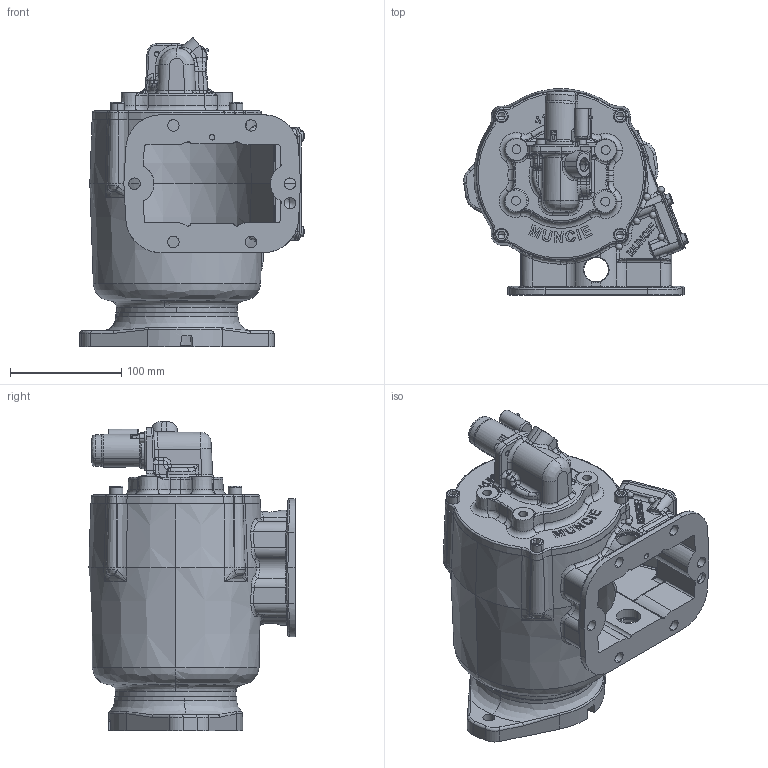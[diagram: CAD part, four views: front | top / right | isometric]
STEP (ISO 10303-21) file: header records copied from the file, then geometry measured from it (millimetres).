
FILE_DESCRIPTION (( 'STEP AP203' ), '1' );
FILE_NAME ('CS6B-XXXXX-S1SX.STEP', '2023-06-02T20:35:04', ( '' ), ( '' ), 'SwSTEP 2.0', 'SolidWorks 2021', '' );
FILE_SCHEMA (( 'CONFIG_CONTROL_DESIGN' ));
Length unit declared in the file: inch
Products named in the file (12): 36MCL100-1; 35T40860-1; 12T34003; 01T36713; 11T36124-1; 16T41119; CS6B-XXXXX-S1SX; 19T41118; 14T35464; 19T35237; 15T41597; 19T40859
Assembly tree (18 placements, depth 2):
  CS6B-XXXXX-S1SX
    01T36713
    11T36124-1
    12T34003
    15T41597
    16T41119
    19T35237  x4
    19T40859  x2
    35T40860-1
    36MCL100-1
    19T41118  x4
    14T35464
Bounding box: 201.97 x 185.25 x 278.15 mm (x, y, z)
Volume: 1316440.3 mm3; surface area: 402493.7 mm2
Topology: 19 solids, 19 shells, 3843 faces, 10253 edges, 6549 vertices
Faces by surface type: plane 1532, bspline 1391, cylinder 634, cone 204, torus 78, sphere 4
Entity records: 207459 total; most frequent: CARTESIAN_POINT 124450, ORIENTED_EDGE 19584, DIRECTION 12434, EDGE_CURVE 9792, VERTEX_POINT 6334, LINE 4914, VECTOR 4914, EDGE_LOOP 4018
